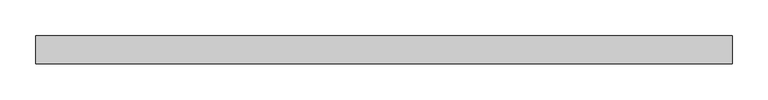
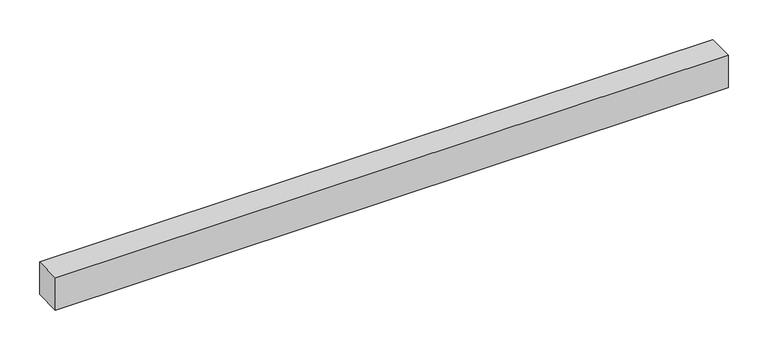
"""IFC4 building model written with IfcOpenShell, lengths in millimetres: light fixture geometry, GENILED_Светильник светодиодный_Line Advanced : Line Advanced 980x40x50 20Вт Опал."""

from ifc_helpers import new_model, si_unit, origin, origin_with_axes, place, context, project, spatial, polyline, outline, extrude, faceted_brep, source, transform, mapped, element, save


def light_fixture_25df60ce(model_context):
    return source(origin(), model_context, "Body", "SolidModel", [
        faceted_brep([(490.0, 20.0, 50.0), (-490.0, 20.0, 50.0), (-490.0, -20.0, 50.0), (490.0, -20.0, 50.0), (488.0, 18.0, 5.0), (488.0, -18.0, 5.0), (-488.0, -18.0, 5.0), (-488.0, 18.0, 5.0), (490.0, 20.0, 0.0), (490.0, -20.0, 0.0), (-490.0, -20.0, 0.0), (-490.0, 20.0, 0.0), (488.0, 18.0, 0.0), (-488.0, 18.0, 0.0), (-488.0, -18.0, 0.0), (488.0, -18.0, 0.0)], [[[0, 1, 2, 3]], [[4, 5, 6, 7]], [[8, 9, 10, 11], [12, 13, 14, 15]], [[1, 0, 8, 11]], [[2, 1, 11, 10]], [[3, 2, 10, 9]], [[0, 3, 9, 8]], [[12, 15, 5, 4]], [[15, 14, 6, 5]], [[14, 13, 7, 6]], [[13, 12, 4, 7]]]),
        extrude(outline(polyline([(488.0, 18.0), (488.0, -18.0), (-488.0, -18.0), (-488.0, 18.0), (488.0, 18.0)])), origin_with_axes(), (0.0, 0.0, 1.0), 5.0),
    ])


if __name__ == "__main__":
    model = new_model("IFC4")
    model_context = context("Model", 3, world=origin())
    ifc_project = project(units=[si_unit("LENGTHUNIT", "METRE", prefix="MILLI")], contexts=[model_context])
    site = spatial("IfcSite", under=ifc_project)
    building = spatial("IfcBuilding", under=site)
    placement = place(None, origin())
    light_fixture_shape = light_fixture_25df60ce(model_context)
    element("IfcLightFixture", 1, ObjectType="GENILED_Светильник светодиодный_Line Advanced : Line Advanced 980x40x50 20Вт Опал", at=placement, inside=building, context=model_context, shape_type="MappedRepresentation", body=[
        mapped(light_fixture_shape, transform((0.0, 0.0, 0.0), x_axis=(1.0, 0.0, 0.0), y_axis=(0.0, 1.0, 0.0), z_axis=(0.0, 0.0, 1.0))),
    ])
    save(model, "model.ifc")
